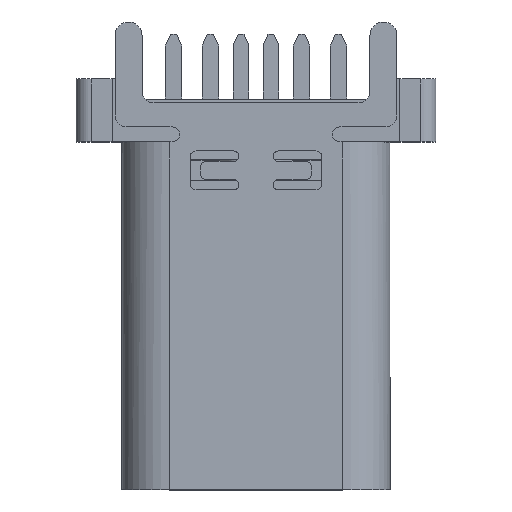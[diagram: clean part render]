
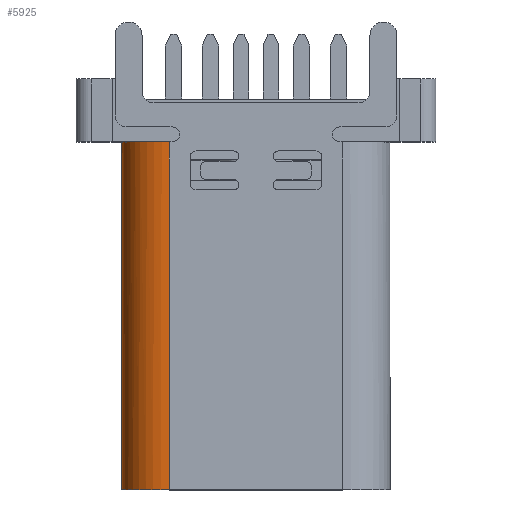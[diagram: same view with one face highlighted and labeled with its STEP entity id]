
A CAD part, top view. The second image highlights one B-rep face of the part: STEP entity #5925.
In plain terms, the highlighted cylindrical face has radius 1.58 mm (diameter 3.16 mm), a partial arc.
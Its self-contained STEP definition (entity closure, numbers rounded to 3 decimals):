
#115 = ORIENTED_EDGE ( 'NONE', *, *, #9076, .F. ) ;
#553 = CARTESIAN_POINT ( 'NONE',  ( -2.89, 11.1, -2.5 ) ) ;
#917 = CARTESIAN_POINT ( 'NONE',  ( -4.47, -0.5, -2.5 ) ) ;
#935 = VECTOR ( 'NONE', #3469, 1000. ) ;
#1072 = LINE ( 'NONE', #6808, #935 ) ;
#1433 = ORIENTED_EDGE ( 'NONE', *, *, #2773, .T. ) ;
#1445 = VERTEX_POINT ( 'NONE', #8984 ) ;
#1874 = DIRECTION ( 'NONE',  ( 0., -1., 0. ) ) ;
#2609 = CARTESIAN_POINT ( 'NONE',  ( -2.89, 11.1, -0.92 ) ) ;
#2669 = EDGE_CURVE ( 'NONE', #9862, #10075, #1072, .T. ) ;
#2773 = EDGE_CURVE ( 'NONE', #4614, #9862, #4997, .T. ) ;
#2962 = CARTESIAN_POINT ( 'NONE',  ( -4.47, 11.1, -2.5 ) ) ;
#3027 = DIRECTION ( 'NONE',  ( 0., -1., 0. ) ) ;
#3469 = DIRECTION ( 'NONE',  ( 0., -1., 0. ) ) ;
#3548 = DIRECTION ( 'NONE',  ( 0., -1., 0. ) ) ;
#3607 = CARTESIAN_POINT ( 'NONE',  ( -2.89, 11.1, -2.5 ) ) ;
#4110 = CARTESIAN_POINT ( 'NONE',  ( -3.856, 11.1, -1.25 ) ) ;
#4191 = LINE ( 'NONE', #9998, #5605 ) ;
#4614 = VERTEX_POINT ( 'NONE', #4110 ) ;
#4646 = DIRECTION ( 'NONE',  ( 0., -1., 0. ) ) ;
#4997 = CIRCLE ( 'NONE', #10451, 1.58 ) ;
#5416 = EDGE_CURVE ( 'NONE', #7191, #4614, #10214, .T. ) ;
#5605 = VECTOR ( 'NONE', #5712, 1000. ) ;
#5712 = DIRECTION ( 'NONE',  ( 0., -1., 0. ) ) ;
#5882 = AXIS2_PLACEMENT_3D ( 'NONE', #6468, #4646, #10686 ) ;
#5925 = ADVANCED_FACE ( 'NONE', ( #9177 ), #7303, .T. ) ;
#6268 = ORIENTED_EDGE ( 'NONE', *, *, #5416, .T. ) ;
#6468 = CARTESIAN_POINT ( 'NONE',  ( -2.89, -0.5, -2.5 ) ) ;
#6808 = CARTESIAN_POINT ( 'NONE',  ( -4.47, 11.1, -2.5 ) ) ;
#6858 = AXIS2_PLACEMENT_3D ( 'NONE', #7691, #1874, #9362 ) ;
#6961 = DIRECTION ( 'NONE',  ( -1., 0., 0. ) ) ;
#7191 = VERTEX_POINT ( 'NONE', #2609 ) ;
#7303 = CYLINDRICAL_SURFACE ( 'NONE', #6858, 1.58 ) ;
#7555 = EDGE_LOOP ( 'NONE', ( #1433, #7710, #9441, #115, #6268 ) ) ;
#7691 = CARTESIAN_POINT ( 'NONE',  ( -2.89, 11.1, -2.5 ) ) ;
#7710 = ORIENTED_EDGE ( 'NONE', *, *, #2669, .T. ) ;
#8506 = EDGE_CURVE ( 'NONE', #1445, #10075, #8707, .T. ) ;
#8707 = CIRCLE ( 'NONE', #5882, 1.58 ) ;
#8911 = DIRECTION ( 'NONE',  ( -1., 0., 0. ) ) ;
#8984 = CARTESIAN_POINT ( 'NONE',  ( -2.89, -0.5, -0.92 ) ) ;
#9076 = EDGE_CURVE ( 'NONE', #7191, #1445, #4191, .T. ) ;
#9177 = FACE_OUTER_BOUND ( 'NONE', #7555, .T. ) ;
#9362 = DIRECTION ( 'NONE',  ( -1., 0., 0. ) ) ;
#9441 = ORIENTED_EDGE ( 'NONE', *, *, #8506, .F. ) ;
#9862 = VERTEX_POINT ( 'NONE', #2962 ) ;
#9998 = CARTESIAN_POINT ( 'NONE',  ( -2.89, 11.1, -0.92 ) ) ;
#10075 = VERTEX_POINT ( 'NONE', #917 ) ;
#10214 = CIRCLE ( 'NONE', #10475, 1.58 ) ;
#10451 = AXIS2_PLACEMENT_3D ( 'NONE', #553, #3027, #8911 ) ;
#10475 = AXIS2_PLACEMENT_3D ( 'NONE', #3607, #3548, #6961 ) ;
#10686 = DIRECTION ( 'NONE',  ( 1., 0., 0. ) ) ;
